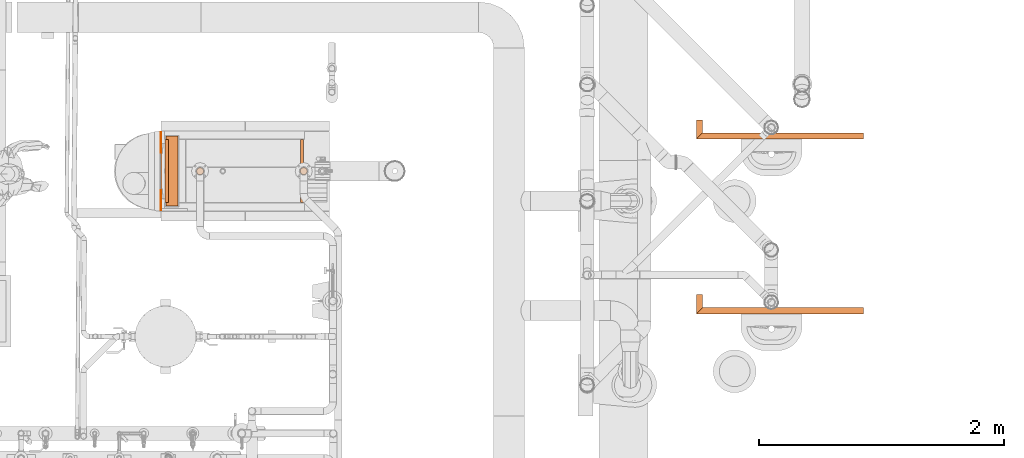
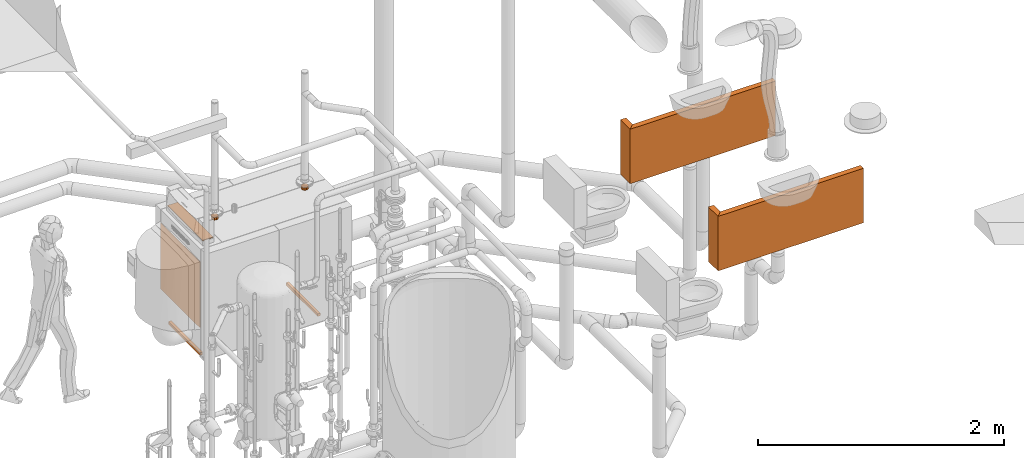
# One storey, part 363 of 374: 10 proxies.
"""IFC2X3 building model written with IfcOpenShell, lengths in metres."""

from ifc_helpers import new_model, si_unit, direction, origin, place, context, subcontext, project, spatial, open_shell, surface_model, source, transform, mapped, element, save


model = new_model("IFC2X3")

# Units and contexts
model_context = context("Model", 3, precision=1e-05, world=origin(), true_north=direction((-0.4480736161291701, 0.8939966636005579)))
body_context = subcontext(model_context, "Body", "Model", "MODEL_VIEW")
ifc_project = project(units=[si_unit("LENGTHUNIT", "METRE"), si_unit("AREAUNIT", "SQUARE_METRE"), si_unit("VOLUMEUNIT", "CUBIC_METRE"), si_unit("PLANEANGLEUNIT", "RADIAN"), si_unit("THERMODYNAMICTEMPERATUREUNIT", "KELVIN"), si_unit("MASSUNIT", "GRAM", prefix="KILO"), si_unit("TIMEUNIT", "SECOND")], contexts=[model_context])

# Site, building, storey
site_placement = place(None, origin())
site = spatial("IfcSite", under=ifc_project, at=site_placement, Name="Site 1", CompositionType="ELEMENT")
building_placement = place(site_placement, origin())
building = spatial("IfcBuilding", under=site, at=building_placement, Name="Undefined", CompositionType="ELEMENT")
storey_placement = place(building_placement, origin())
storey = spatial("IfcBuildingStorey", under=building, at=storey_placement, Name="Rez de chauss\x8ee", CompositionType="ELEMENT", Elevation=0.0)

# Proxies
shared_shape_1 = source(origin(), body_context, "Body", "SurfaceModel", [
    surface_model("IfcFaceBasedSurfaceModel", [(0.0, 0.54, 0.0), (0.0, 0.0, 0.0), (1.3124903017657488, 0.0, 0.0), (1.3124903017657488, 0.54, 0.0), (1.3124903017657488, 0.54, -0.05000000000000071), (1.3124903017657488, 0.0, -0.05000000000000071), (-0.05000000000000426, 0.0, -0.05000000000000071), (-0.05000000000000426, 0.54, -0.05000000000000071)], [open_shell([[[0, 1, 2, 3]], [[4, 5, 6, 7]], [[4, 3, 2, 5]], [[0, 3, 4, 7]], [[6, 5, 2, 1]]])]),
])
proxy_1_placement = place(storey_placement, origin())
element("IfcBuildingElementProxy", 1, at=proxy_1_placement, inside=storey, Name="BuildingElementProxy 52", context=body_context, shape_type="MappedRepresentation", body=[
    mapped(shared_shape_1, transform((58.01250969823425, 13.368098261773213, 0.54), x_axis=(1.0, 0.0, 0.0), y_axis=(0.0, 0.0, -1.0), z_axis=(0.0, 1.0, 0.0))),
])
proxy_2_placement = place(storey_placement, origin())
element("IfcBuildingElementProxy", 2, at=proxy_2_placement, inside=storey, Name="BuildingElementProxy 53", context=body_context, shape_type="MappedRepresentation", body=[
    mapped(shared_shape_1, transform((58.01250969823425, 11.943098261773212, 0.54), x_axis=(1.0, 0.0, 0.0), y_axis=(0.0, 0.0, -1.0), z_axis=(0.0, 1.0, 0.0))),
])
shared_shape_2 = source(origin(), body_context, "Body", "SurfaceModel", [
    surface_model("IfcFaceBasedSurfaceModel", [(0.0, 0.0, 0.0), (0.54, 0.0, 0.0), (0.54, 0.10690173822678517, 0.0), (0.0, 0.10690173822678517, 0.0), (0.0, 0.15690173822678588, -0.05000000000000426), (0.54, 0.15690173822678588, -0.05000000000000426), (0.54, 0.0, -0.05000000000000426), (0.0, 0.0, -0.05000000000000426)], [open_shell([[[0, 1, 2, 3]], [[4, 5, 6, 7]], [[6, 1, 0, 7]], [[4, 7, 0, 3]], [[2, 1, 6, 5]]])]),
])
proxy_3_placement = place(storey_placement, origin())
element("IfcBuildingElementProxy", 3, at=proxy_3_placement, inside=storey, Name="BuildingElementProxy 51", context=body_context, shape_type="MappedRepresentation", body=[
    mapped(shared_shape_2, transform((58.01250969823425, 13.474999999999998, 0.0), x_axis=(0.0, 0.0, 1.0), y_axis=(0.0, -1.0, 0.0), z_axis=(1.0, 0.0, 0.0))),
])
proxy_4_placement = place(storey_placement, origin())
element("IfcBuildingElementProxy", 4, at=proxy_4_placement, inside=storey, Name="BuildingElementProxy 54", context=body_context, shape_type="MappedRepresentation", body=[
    mapped(shared_shape_2, transform((58.01250969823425, 12.049999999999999, 0.0), x_axis=(0.0, 0.0, 1.0), y_axis=(0.0, -1.0, 0.0), z_axis=(1.0, 0.0, 0.0))),
])
shared_shape_3 = source(origin(), body_context, "Body", "SurfaceModel", [
    surface_model("IfcFaceBasedSurfaceModel", [(0.018384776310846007, 0.018384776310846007, 0.0), (0.0, 0.0, 0.0), (0.036769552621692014, 0.0, 0.0), (0.018384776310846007, -0.018384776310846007, 0.0), (0.018384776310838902, -0.018384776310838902, -0.513999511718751), (0.03676955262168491, 7.105427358e-15, -0.513999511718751), (0.018384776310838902, 0.018384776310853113, -0.513999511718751), (-7.105427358e-15, 7.105427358e-15, -0.513999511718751)], [open_shell([[[0, 1, 2]], [[2, 1, 3]], [[3, 4, 2]], [[2, 4, 5]], [[0, 2, 6]], [[6, 2, 5]], [[6, 5, 7]], [[7, 5, 4]], [[3, 1, 4]], [[4, 1, 7]], [[0, 6, 1]], [[1, 6, 7]]])]),
])
proxy_5_placement = place(storey_placement, origin())
element("IfcBuildingElementProxy", 5, at=proxy_5_placement, inside=storey, Name="BuildingElementProxy 15", context=body_context, shape_type="MappedRepresentation", body=[
    mapped(shared_shape_3, transform((54.76053930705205, 12.799213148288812, 0.155), x_axis=(-0.7071067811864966, 0.0, -0.7071067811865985), y_axis=(0.707106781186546, 0.0, -0.707106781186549), z_axis=(0.0, -1.0, 0.0))),
])
shared_shape_4 = source(origin(), body_context, "Body", "SurfaceModel", [
    surface_model("IfcFaceBasedSurfaceModel", [(0.018384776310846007, 0.018384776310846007, 0.0), (0.0, 0.0, 0.0), (0.036769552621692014, 0.0, 0.0), (0.018384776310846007, -0.018384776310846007, 0.0), (0.018384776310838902, 0.018384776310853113, -0.513999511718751), (-7.105427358e-15, 7.105427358e-15, -0.513999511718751), (0.03676955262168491, 7.105427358e-15, -0.513999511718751), (0.018384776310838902, -0.018384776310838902, -0.513999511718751)], [open_shell([[[0, 1, 2]], [[2, 1, 3]], [[0, 4, 1]], [[1, 4, 5]], [[0, 2, 4]], [[4, 2, 6]], [[7, 5, 6]], [[6, 5, 4]], [[3, 1, 7]], [[7, 1, 5]], [[3, 7, 2]], [[2, 7, 6]]])]),
])
proxy_6_placement = place(storey_placement, origin())
element("IfcBuildingElementProxy", 6, at=proxy_6_placement, inside=storey, Name="BuildingElementProxy 16", context=body_context, shape_type="MappedRepresentation", body=[
    mapped(shared_shape_4, transform((53.65765970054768, 12.799213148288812, 0.155), x_axis=(-0.7071067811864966, 0.0, -0.7071067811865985), y_axis=(0.707106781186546, 0.0, -0.707106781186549), z_axis=(0.0, -1.0, 0.0))),
])
shared_shape_5 = source(origin(), body_context, "Body", "SurfaceModel", [
    surface_model("IfcFaceBasedSurfaceModel", [(0.563306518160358, 0.09560996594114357, 0.0), (0.0, 0.0, 0.0), (0.5795343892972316, 0.0, 0.0), (0.016227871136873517, -0.09560996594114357, 0.0), (0.5795343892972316, 0.0, -0.007043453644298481), (0.563306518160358, 0.09560996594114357, -0.007043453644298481), (0.016227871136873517, -0.09560996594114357, -0.007043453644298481), (0.0, 0.0, -0.007043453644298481)], [open_shell([[[0, 1, 2]], [[2, 1, 3]], [[4, 5, 2]], [[2, 5, 0]], [[3, 6, 2]], [[2, 6, 4]], [[7, 6, 1]], [[1, 6, 3]], [[0, 5, 1]], [[1, 5, 7]], [[7, 5, 6]], [[6, 5, 4]]])]),
])
proxy_7_placement = place(storey_placement, origin())
element("IfcBuildingElementProxy", 7, at=proxy_7_placement, inside=storey, Name="BuildingElementProxy 30", context=body_context, shape_type="MappedRepresentation", body=[
    mapped(shared_shape_5, transform((53.6409266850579, 13.341894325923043, 1.2779532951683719), x_axis=(0.1673366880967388, -0.9858998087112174, 0.0), y_axis=(-0.9858998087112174, -0.1673366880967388, 0.0), z_axis=(0.0, 0.0, -1.0))),
])
shared_shape_6 = source(origin(), body_context, "Body", "SurfaceModel", [
    surface_model("IfcFaceBasedSurfaceModel", [(0.015074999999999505, 0.004039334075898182, 0.0), (0.0, 0.0, 0.0), (0.030150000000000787, 0.0, 0.0), (0.04118566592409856, -0.011035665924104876, 0.0), (-0.011035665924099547, -0.011035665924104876, 0.0), (0.045224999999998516, -0.02611066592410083, 0.0), (-0.015074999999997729, -0.02611066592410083, 0.0), (0.04118566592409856, -0.04118566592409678, 0.0), (-0.01103566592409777, -0.04118566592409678, 0.0), (0.030150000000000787, -0.05222133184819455, 0.0), (0.0, -0.05222133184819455, 0.0), (0.015074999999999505, -0.05626066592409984, 0.0), (0.030150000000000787, -0.05222133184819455, -0.02800000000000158), (0.015074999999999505, -0.05626066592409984, -0.02800000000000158), (0.0, -0.05222133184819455, -0.02800000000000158), (-0.01103566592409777, -0.04118566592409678, -0.02800000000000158), (-0.015074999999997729, -0.02611066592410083, -0.02800000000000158), (-0.011035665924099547, -0.011035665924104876, -0.02800000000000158), (0.0, 0.0, -0.02800000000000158), (0.015074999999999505, 0.004039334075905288, -0.02800000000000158), (0.030150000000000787, 0.0, -0.02800000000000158), (0.04118566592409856, -0.011035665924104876, -0.02800000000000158), (0.045224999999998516, -0.02611066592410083, -0.02800000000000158), (0.04118566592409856, -0.04118566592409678, -0.02800000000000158)], [open_shell([[[0, 1, 2]], [[2, 1, 3]], [[1, 4, 3]], [[3, 4, 5]], [[4, 6, 5]], [[5, 6, 7]], [[6, 8, 7]], [[7, 8, 9]], [[8, 10, 9]], [[9, 10, 11]], [[12, 11, 13]], [[13, 11, 10]], [[13, 10, 14]], [[14, 10, 8]], [[14, 8, 15]], [[15, 8, 6]], [[15, 6, 16]], [[16, 6, 4]], [[16, 4, 17]], [[17, 4, 1]], [[17, 1, 18]], [[18, 1, 0]], [[18, 0, 19]], [[19, 0, 2]], [[19, 2, 20]], [[20, 2, 3]], [[20, 3, 21]], [[21, 3, 5]], [[21, 5, 22]], [[22, 5, 7]], [[22, 7, 23]], [[23, 7, 9]], [[23, 9, 12]], [[12, 9, 11]], [[13, 14, 12]], [[12, 14, 23]], [[14, 15, 23]], [[23, 15, 22]], [[15, 16, 22]], [[22, 16, 21]], [[16, 17, 21]], [[21, 17, 20]], [[17, 18, 20]], [[20, 18, 19]]])]),
])
proxy_8_placement = place(storey_placement, origin())
element("IfcBuildingElementProxy", 8, at=proxy_8_placement, inside=storey, Name="BuildingElementProxy 38", context=body_context, shape_type="MappedRepresentation", body=[
    mapped(shared_shape_6, transform((53.89098883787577, 13.071287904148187, 1.2340000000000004), x_axis=(0.0, -1.0, 0.0), y_axis=(-1.0, 0.0, 0.0), z_axis=(0.0, 0.0, -1.0))),
])
proxy_9_placement = place(storey_placement, origin())
element("IfcBuildingElementProxy", 9, at=proxy_9_placement, inside=storey, Name="BuildingElementProxy 41", context=body_context, shape_type="MappedRepresentation", body=[
    mapped(shared_shape_6, transform((54.735988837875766, 13.071287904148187, 1.2340000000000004), x_axis=(0.0, -1.0, 0.0), y_axis=(-1.0, 0.0, 0.0), z_axis=(0.0, 0.0, -1.0))),
])
shared_shape_7 = source(origin(), body_context, "Body", "SurfaceModel", [
    surface_model("IfcFaceBasedSurfaceModel", [(0.44595229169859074, 0.4561176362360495, 0.0), (0.0, 0.0, 0.0), (0.9124669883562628, 0.0, 0.0), (0.4665146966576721, -0.4561176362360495, 0.0), (0.9124669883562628, 0.0, -0.005110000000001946), (0.44595229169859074, 0.4561176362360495, -0.005110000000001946), (0.4665146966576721, -0.4561176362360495, -0.005110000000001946), (0.0, 0.0, -0.005110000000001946)], [open_shell([[[0, 1, 2]], [[2, 1, 3]], [[4, 5, 2]], [[2, 5, 0]], [[6, 4, 3]], [[3, 4, 2]], [[7, 6, 1]], [[1, 6, 3]], [[5, 7, 0]], [[0, 7, 1]], [[7, 5, 6]], [[6, 5, 4]]])]),
])
proxy_10_placement = place(storey_placement, origin())
element("IfcBuildingElementProxy", 10, at=proxy_10_placement, inside=storey, Name="BuildingElementProxy 42", context=body_context, shape_type="MappedRepresentation", body=[
    mapped(shared_shape_7, transform((53.594989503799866, 12.737262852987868, 0.4538247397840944), x_axis=(0.0, 0.6990940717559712, 0.7150297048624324), y_axis=(0.0, 0.7150297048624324, -0.6990940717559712), z_axis=(-1.0, 0.0, 0.0))),
])

save(model, "model.ifc")
